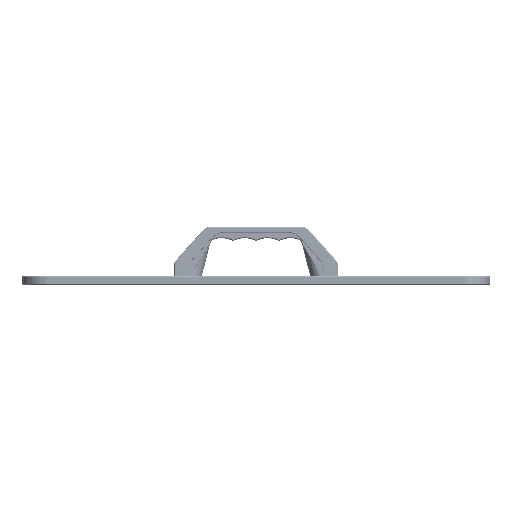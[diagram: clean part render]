
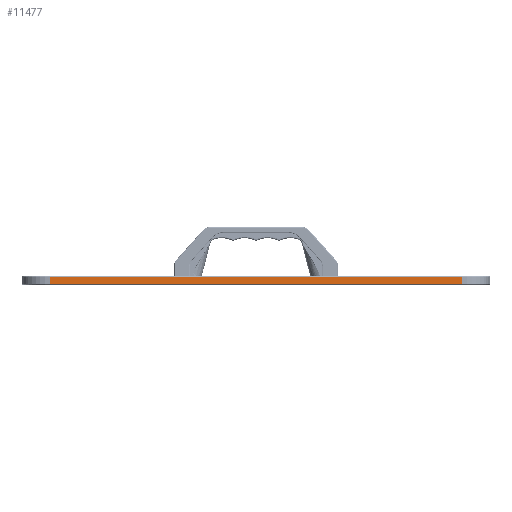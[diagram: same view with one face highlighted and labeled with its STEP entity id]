
A CAD part, left-side view. The second image highlights one B-rep face of the part: STEP entity #11477.
In plain terms, the highlighted planar face has unit normal (-1, 0, 0).
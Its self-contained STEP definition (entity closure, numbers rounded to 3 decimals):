
#7370=PLANE('',#60880);
#11477=ADVANCED_FACE('',(#15340),#7370,.T.);
#15340=FACE_OUTER_BOUND('',#18643,.T.);
#18643=EDGE_LOOP('',(#27979,#27980,#27981,#27982));
#27979=ORIENTED_EDGE('',*,*,#46684,.F.);
#27980=ORIENTED_EDGE('',*,*,#46686,.T.);
#27981=ORIENTED_EDGE('',*,*,#46687,.T.);
#27982=ORIENTED_EDGE('',*,*,#46688,.T.);
#40918=VERTEX_POINT('',#91340);
#40919=VERTEX_POINT('',#91342);
#40920=VERTEX_POINT('',#91346);
#40921=VERTEX_POINT('',#91348);
#46684=EDGE_CURVE('',#40918,#40919,#52248,.T.);
#46686=EDGE_CURVE('',#40918,#40920,#52249,.T.);
#46687=EDGE_CURVE('',#40920,#40921,#52250,.T.);
#46688=EDGE_CURVE('',#40921,#40919,#52251,.T.);
#52248=LINE('',#91341,#56224);
#52249=LINE('',#91345,#56225);
#52250=LINE('',#91347,#56226);
#52251=LINE('',#91349,#56227);
#56224=VECTOR('',#68061,1.);
#56225=VECTOR('',#68066,1.);
#56226=VECTOR('',#68067,1.);
#56227=VECTOR('',#68068,1.);
#60880=AXIS2_PLACEMENT_3D('',#91350,#68069,#68070);
#68061=DIRECTION('',(0.,0.,1.));
#68066=DIRECTION('',(0.,-1.,0.));
#68067=DIRECTION('',(0.,0.,1.));
#68068=DIRECTION('',(0.,1.,0.));
#68069=DIRECTION('',(-1.,0.,0.));
#68070=DIRECTION('',(0.,0.,-1.));
#91340=CARTESIAN_POINT('',(-255.,225.,-9.));
#91341=CARTESIAN_POINT('',(-255.,225.,-10.));
#91342=CARTESIAN_POINT('',(-255.,225.,-1.));
#91345=CARTESIAN_POINT('',(-255.,-225.,-9.));
#91346=CARTESIAN_POINT('',(-255.,-225.,-9.));
#91347=CARTESIAN_POINT('',(-255.,-225.,-10.));
#91348=CARTESIAN_POINT('',(-255.,-225.,-1.));
#91349=CARTESIAN_POINT('',(-255.,225.,-1.));
#91350=CARTESIAN_POINT('',(-255.,225.,-10.));
